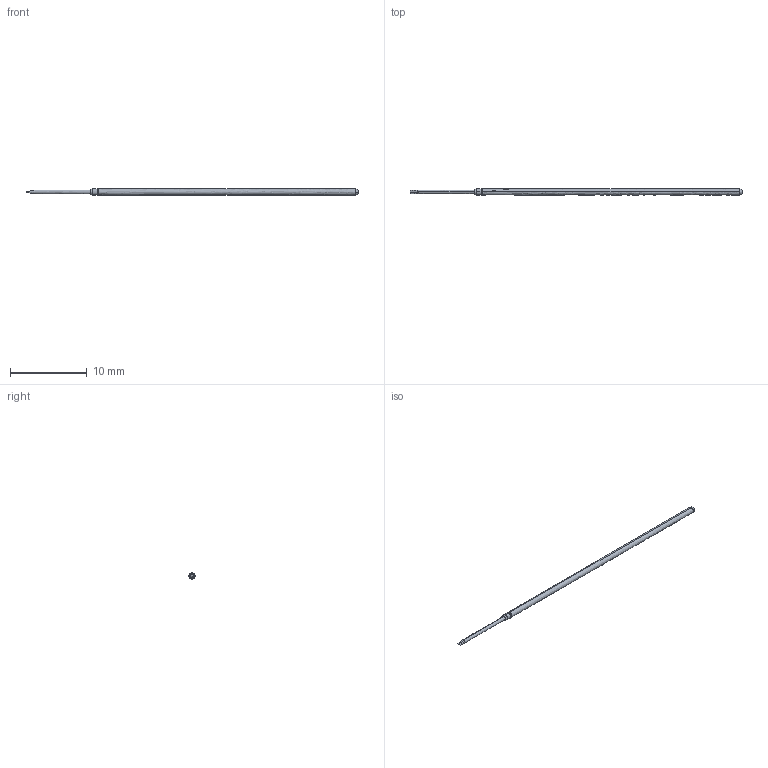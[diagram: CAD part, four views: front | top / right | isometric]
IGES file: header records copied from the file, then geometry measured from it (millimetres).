
Start section: SolidWorks IGES file using analytic representation for surfaces
Global section: file name: L:\probe solid model mockups\Solidworks models\POGO-72I.IGS; native system: SolidWorks 2006 by SolidWorks Corporation; preprocessor: SolidWorks 2006 by SolidWorks Corporation; author: Ksnyder; date: 071211.135717; units: inch
Bounding box: 43.18 x 0.79 x 0.79 mm (x, y, z)
Surface area: 181.9 mm2
Topology: 1 solids, 1 shells, 22 faces, 48 edges, 27 vertices
Faces by surface type: revolution 16, plane 6
